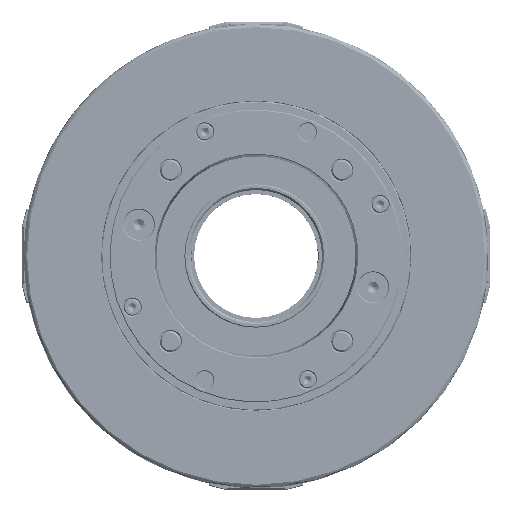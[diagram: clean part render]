
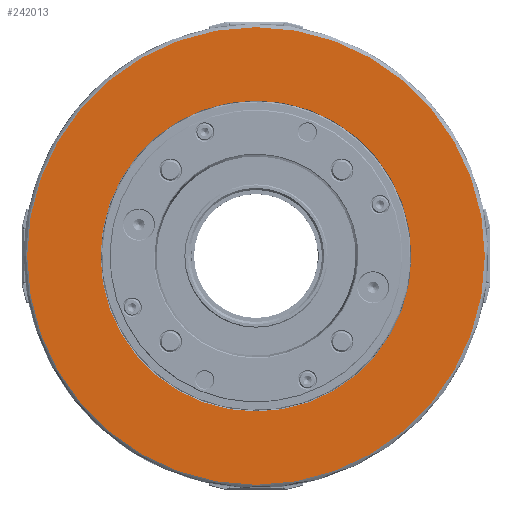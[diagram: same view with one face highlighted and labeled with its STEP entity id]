
A CAD part, front view. The second image highlights one B-rep face of the part: STEP entity #242013.
In plain terms, the highlighted planar face has unit normal (0, -1, 0).
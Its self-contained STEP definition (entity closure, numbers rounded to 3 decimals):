
#6872=PLANE('',#256854);
#75742=FACE_BOUND('',#92304,.T.);
#80785=FACE_OUTER_BOUND('',#92303,.T.);
#92303=EDGE_LOOP('',(#192009));
#92304=EDGE_LOOP('',(#192010));
#99887=CIRCLE('',#256276,221.794);
#99889=CIRCLE('',#256279,150.721);
#112123=VERTEX_POINT('',#369233);
#112125=VERTEX_POINT('',#369238);
#141276=EDGE_CURVE('',#112123,#112123,#99887,.T.);
#141278=EDGE_CURVE('',#112125,#112125,#99889,.T.);
#192009=ORIENTED_EDGE('',*,*,#141276,.T.);
#192010=ORIENTED_EDGE('',*,*,#141278,.T.);
#242013=ADVANCED_FACE('',(#80785,#75742),#6872,.T.);
#256276=AXIS2_PLACEMENT_3D('',#369234,#295074,#295075);
#256279=AXIS2_PLACEMENT_3D('',#369239,#295080,#295081);
#256854=AXIS2_PLACEMENT_3D('',#373450,#296625,#296626);
#295074=DIRECTION('center_axis',(0.,-1.,0.));
#295075=DIRECTION('ref_axis',(0.,0.,1.));
#295080=DIRECTION('center_axis',(0.,1.,0.));
#295081=DIRECTION('ref_axis',(0.,0.,-1.));
#296625=DIRECTION('center_axis',(0.,-1.,0.));
#296626=DIRECTION('ref_axis',(0.,0.,-1.));
#369233=CARTESIAN_POINT('',(0.,0.,
-221.794));
#369234=CARTESIAN_POINT('Origin',(0.,0.,0.));
#369238=CARTESIAN_POINT('',(0.,0.,
150.721));
#369239=CARTESIAN_POINT('Origin',(0.,0.,0.));
#373450=CARTESIAN_POINT('Origin',(0.,0.,0.));
